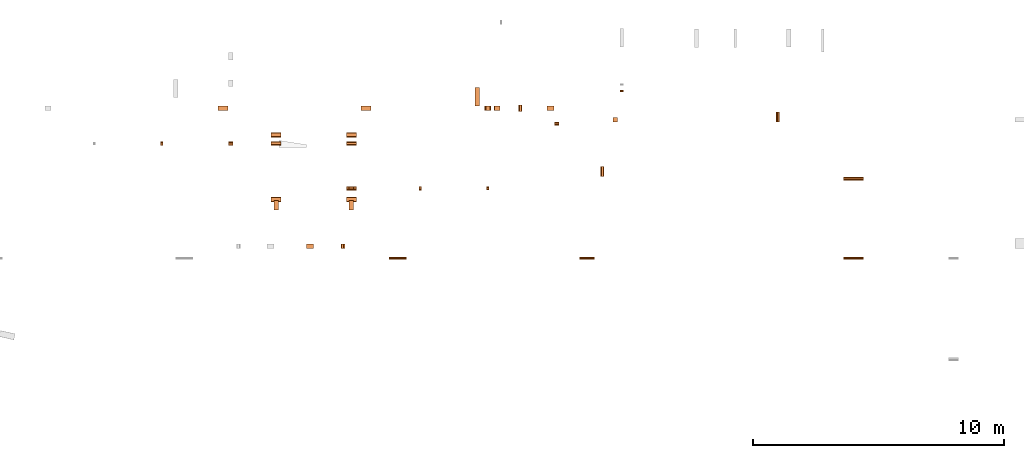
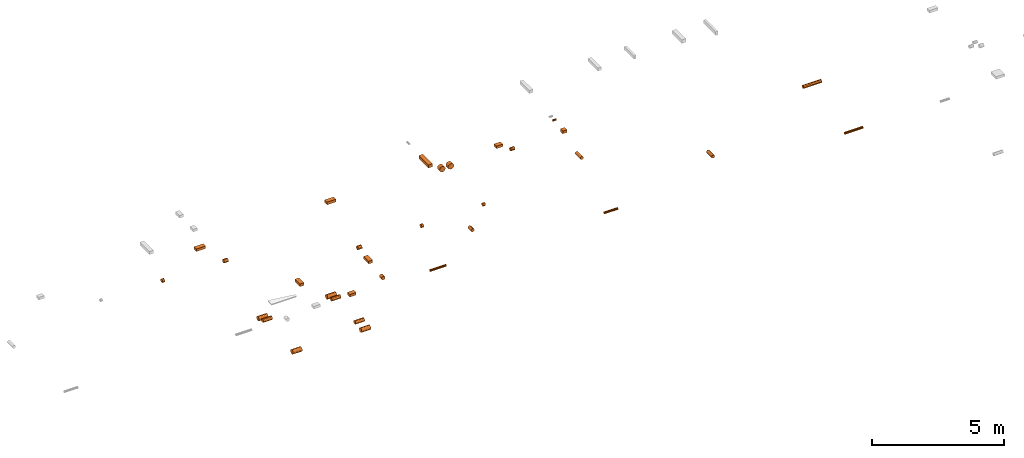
# One storey, part 4 of 7: 37 proxies.
"""IFC2X3 building model written with IfcOpenShell, lengths in centimetres."""

from ifc_helpers import new_model, entity, si_unit, converted_unit, derived_unit, direction, frame, frame_2d, origin, origin_2d_with_axis, place, context, subcontext, project, spatial, rectangle, circle, extrude, source, transform, mapped, material, type_object, type_shapes, element, save


model = new_model("IFC2X3")

# Units and contexts
model_context = context("Model", 3, precision=0.001, world=origin(), true_north=direction((6.12303176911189e-17, 1.0)))
body_context = subcontext(model_context, "Body", "Model", "MODEL_VIEW")
ifc_project = project(units=[si_unit("LENGTHUNIT", "METRE", prefix="CENTI"), si_unit("AREAUNIT", "SQUARE_METRE"), si_unit("VOLUMEUNIT", "CUBIC_METRE"), converted_unit("PLANEANGLEUNIT", "DEGREE", entity("IfcRatioMeasure", 0.0174532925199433), si_unit("PLANEANGLEUNIT", "RADIAN"), dimensions=[0, 0, 0, 0, 0, 0, 0]), si_unit("MASSUNIT", "GRAM", prefix="KILO"), derived_unit("MASSDENSITYUNIT", [(si_unit("MASSUNIT", "GRAM", prefix="KILO"), 1), (si_unit("LENGTHUNIT", "METRE"), -3)]), si_unit("TIMEUNIT", "SECOND"), si_unit("FREQUENCYUNIT", "HERTZ"), si_unit("THERMODYNAMICTEMPERATUREUNIT", "DEGREE_CELSIUS"), derived_unit("THERMALTRANSMITTANCEUNIT", [(si_unit("MASSUNIT", "GRAM", prefix="KILO"), 1), (si_unit("THERMODYNAMICTEMPERATUREUNIT", "KELVIN"), -1), (si_unit("TIMEUNIT", "SECOND"), -3)]), derived_unit("VOLUMETRICFLOWRATEUNIT", [(si_unit("LENGTHUNIT", "METRE"), 3), (si_unit("TIMEUNIT", "SECOND"), -1)]), si_unit("ELECTRICCURRENTUNIT", "AMPERE"), si_unit("ELECTRICVOLTAGEUNIT", "VOLT"), si_unit("POWERUNIT", "WATT"), si_unit("FORCEUNIT", "NEWTON"), si_unit("ILLUMINANCEUNIT", "LUX"), si_unit("LUMINOUSFLUXUNIT", "LUMEN"), si_unit("LUMINOUSINTENSITYUNIT", "CANDELA"), derived_unit("USERDEFINED", [(si_unit("MASSUNIT", "GRAM", prefix="KILO"), -1), (si_unit("LENGTHUNIT", "METRE"), -2), (si_unit("TIMEUNIT", "SECOND"), 3), (si_unit("LUMINOUSFLUXUNIT", "LUMEN"), 1)]), derived_unit("LINEARVELOCITYUNIT", [(si_unit("LENGTHUNIT", "METRE"), 1), (si_unit("TIMEUNIT", "SECOND"), -1)]), si_unit("PRESSUREUNIT", "PASCAL"), derived_unit("USERDEFINED", [(si_unit("LENGTHUNIT", "METRE"), -2), (si_unit("MASSUNIT", "GRAM", prefix="KILO"), 1), (si_unit("TIMEUNIT", "SECOND"), -2)])], contexts=[model_context])

# Site, building, storey
site_placement = place(None, origin())
site = spatial("IfcSite", under=ifc_project, at=site_placement, Name="Default", CompositionType="ELEMENT")
building_placement = place(site_placement, origin())
building = spatial("IfcBuilding", under=site, at=building_placement, Name="CAGE 03", CompositionType="ELEMENT")
storey_placement = place(building_placement, origin())
storey = spatial("IfcBuildingStorey", under=building, at=storey_placement, Name="RDC", CompositionType="ELEMENT", Elevation=-1.08286712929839e-13)

# Proxies
ifc_material = material(Name="Verre")
building_element_proxy_type_1 = type_object("IfcBuildingElementProxyType", Name="Standard", PredefinedType="NOTDEFINED", material=ifc_material)
shared_shape_1 = source(origin(), body_context, "Body", "SweptSolid", [
    extrude(circle(Radius=8.0, at=frame_2d((0.0, -1.35358391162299e-14), x_axis=(1.0, 0.0))), frame((7002.33572292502, 4800.99538609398, -69.9194151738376), z_axis=(1.0, 0.0, 0.0), x_axis=(0.0, 1.0, 0.0)), (0.0, 0.0, 1.0), 40.0300972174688),
])
type_shapes(building_element_proxy_type_1, [shared_shape_1])
proxy_1_placement = place(storey_placement, origin())
element("IfcBuildingElementProxy", 1, at=proxy_1_placement, inside=storey, type_object=building_element_proxy_type_1, material=ifc_material, Name="RESERVATION CIRC_MUR:Standard", ObjectType="Standard", context=body_context, shape_type="MappedRepresentation", body=[
    mapped(shared_shape_1, transform((0.0, 0.0, 0.0), scale=1.0)),
])
building_element_proxy_type_2 = type_object("IfcBuildingElementProxyType", Name="Standard", PredefinedType="NOTDEFINED", material=ifc_material)
shared_shape_2 = source(origin(), body_context, "Body", "SweptSolid", [
    extrude(circle(Radius=8.0, at=frame_2d((0.0, -1.35358391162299e-14), x_axis=(1.0, 0.0))), frame((7302.36582014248, 4621.86983506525, -74.370027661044), z_axis=(1.0, 0.0, 0.0), x_axis=(0.0, 1.0, 0.0)), (0.0, 0.0, 1.0), 40.0000000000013),
])
type_shapes(building_element_proxy_type_2, [shared_shape_2])
proxy_2_placement = place(storey_placement, origin())
element("IfcBuildingElementProxy", 2, at=proxy_2_placement, inside=storey, type_object=building_element_proxy_type_2, material=ifc_material, Name="RESERVATION CIRC_MUR:Standard", ObjectType="Standard", context=body_context, shape_type="MappedRepresentation", body=[
    mapped(shared_shape_2, transform((0.0, 0.0, 0.0), scale=1.0)),
])
building_element_proxy_type_3 = type_object("IfcBuildingElementProxyType", Name="Standard", PredefinedType="NOTDEFINED", material=ifc_material)
shared_shape_3 = source(origin(), body_context, "Body", "SweptSolid", [
    extrude(circle(Radius=8.0, at=frame_2d((0.0, -1.35358391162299e-14), x_axis=(1.0, 0.0))), frame((7302.36582014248, 4800.92565582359, -76.088150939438), z_axis=(1.0, 0.0, 0.0), x_axis=(0.0, 1.0, 0.0)), (0.0, 0.0, 1.0), 40.0000000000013),
])
type_shapes(building_element_proxy_type_3, [shared_shape_3])
proxy_3_placement = place(storey_placement, origin())
element("IfcBuildingElementProxy", 3, at=proxy_3_placement, inside=storey, type_object=building_element_proxy_type_3, material=ifc_material, Name="RESERVATION CIRC_MUR:Standard", ObjectType="Standard", context=body_context, shape_type="MappedRepresentation", body=[
    mapped(shared_shape_3, transform((0.0, 0.0, 0.0), scale=1.0)),
])
building_element_proxy_type_4 = type_object("IfcBuildingElementProxyType", Name="Standard", PredefinedType="NOTDEFINED", material=ifc_material)
shared_shape_4 = source(origin(), body_context, "Body", "SweptSolid", [
    extrude(circle(Radius=7.0, at=frame_2d((0.0, -1.35358391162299e-14), x_axis=(1.0, 0.0))), frame((7996.37299410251, 4929.1606660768, -77.9402316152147), z_axis=(0.0, 1.0, 0.0), x_axis=(-1.0, 0.0, 0.0)), (0.0, 0.0, 1.0), 24.9999999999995),
])
type_shapes(building_element_proxy_type_4, [shared_shape_4])
proxy_4_placement = place(storey_placement, origin())
element("IfcBuildingElementProxy", 4, at=proxy_4_placement, inside=storey, type_object=building_element_proxy_type_4, material=ifc_material, Name="RESERVATION CIRC_MUR:Standard", ObjectType="Standard", context=body_context, shape_type="MappedRepresentation", body=[
    mapped(shared_shape_4, transform((0.0, 0.0, 0.0), scale=1.0)),
])
building_element_proxy_type_5 = type_object("IfcBuildingElementProxyType", Name="Standard", PredefinedType="NOTDEFINED", material=ifc_material)
shared_shape_5 = source(origin(), body_context, "Body", "SweptSolid", [
    extrude(circle(Radius=7.0, at=frame_2d((0.0, -1.35358391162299e-14), x_axis=(1.0, 0.0))), frame((9023.61232498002, 4886.66066607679, -70.9251379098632), z_axis=(0.0, 1.0, 0.0), x_axis=(-1.0, 0.0, 0.0)), (0.0, 0.0, 1.0), 39.9999999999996),
])
type_shapes(building_element_proxy_type_5, [shared_shape_5])
proxy_5_placement = place(storey_placement, origin())
element("IfcBuildingElementProxy", 5, at=proxy_5_placement, inside=storey, type_object=building_element_proxy_type_5, material=ifc_material, Name="RESERVATION CIRC_MUR:Standard", ObjectType="Standard", context=body_context, shape_type="MappedRepresentation", body=[
    mapped(shared_shape_5, transform((0.0, 0.0, 0.0), scale=1.0)),
])
building_element_proxy_type_6 = type_object("IfcBuildingElementProxyType", Name="Standard", PredefinedType="NOTDEFINED", material=ifc_material)
shared_shape_6 = source(origin(), body_context, "Body", "SweptSolid", [
    extrude(circle(Radius=8.0, at=frame_2d((4.97439393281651e-16, -3.60169955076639e-14), x_axis=(1.0, 0.0))), frame((0.0, -5.0, 0.0), z_axis=(0.0, 1.0, 0.0), x_axis=(1.0, 0.0, 0.0)), (0.0, 0.0, 1.0), 10.0000000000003),
])
type_shapes(building_element_proxy_type_6, [shared_shape_6])
proxy_6_placement = place(storey_placement, frame((6566.36582014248, 4801.0105269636, 268.591547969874), z_axis=(0.0, 0.0, 1.0), x_axis=(0.0, -1.0, 0.0)))
element("IfcBuildingElementProxy", 6, at=proxy_6_placement, inside=storey, type_object=building_element_proxy_type_6, material=ifc_material, Name="RESERVATION CIRC_MUR:Standard", ObjectType="Standard", context=body_context, shape_type="MappedRepresentation", body=[
    mapped(shared_shape_6, transform((0.0, 0.0, 0.0), scale=1.0)),
])
building_element_proxy_type_7 = type_object("IfcBuildingElementProxyType", Name="Standard", PredefinedType="NOTDEFINED", material=ifc_material)
shared_shape_7 = source(origin(), body_context, "Body", "SweptSolid", [
    extrude(circle(Radius=8.0, at=frame_2d((4.97439393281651e-16, -3.60169955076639e-14), x_axis=(1.0, 0.0))), frame((0.0, -9.0, 0.0), z_axis=(0.0, 1.0, 0.0), x_axis=(1.0, 0.0, 0.0)), (0.0, 0.0, 1.0), 18.0000000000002),
])
type_shapes(building_element_proxy_type_7, [shared_shape_7])
for number, where, z_axis, x_axis, name in (
    (7, (6840.36582014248, 4801.0105269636, 264.833178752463), (0.0, 0.0, 1.0), (0.0, -1.0, 0.0), "RESERVATION CIRC_MUR:Standard"),
    (8, (7322.36582014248, 4621.8515879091, 265.939359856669), (0.0, 0.0, 1.0), (0.0, 1.0, 0.0), "RESERVATION CIRC_MUR:Standard"),
):
    element("IfcBuildingElementProxy", number, at=place(storey_placement, frame(where, z_axis=z_axis, x_axis=x_axis)), inside=storey, type_object=building_element_proxy_type_7, material=ifc_material, Name=name, ObjectType="Standard", context=body_context, shape_type="MappedRepresentation", body=[
        mapped(shared_shape_7, transform((0.0, 0.0, 0.0), scale=1.0)),
    ])
building_element_proxy_type_8 = type_object("IfcBuildingElementProxyType", Name="Standard", PredefinedType="NOTDEFINED", material=ifc_material)
shared_shape_8 = source(origin(), body_context, "Body", "SweptSolid", [
    extrude(circle(Radius=8.0, at=frame_2d((4.97439393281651e-16, -3.60169955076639e-14), x_axis=(1.0, 0.0))), frame((0.0, -5.0, 0.0), z_axis=(0.0, 1.0, 0.0), x_axis=(1.0, 0.0, 0.0)), (0.0, 0.0, 1.0), 10.0000000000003),
])
type_shapes(building_element_proxy_type_8, [shared_shape_8])
proxy_7_placement = place(storey_placement, frame((7596.36582014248, 4621.85275815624, 270.15172542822), z_axis=(0.0, 0.0, 1.0), x_axis=(0.0, 1.0, 0.0)))
element("IfcBuildingElementProxy", 9, at=proxy_7_placement, inside=storey, type_object=building_element_proxy_type_8, material=ifc_material, Name="BBGO_Résa_Circ:Standard", ObjectType="Standard", context=body_context, shape_type="MappedRepresentation", body=[
    mapped(shared_shape_8, transform((0.0, 0.0, 0.0), scale=1.0)),
])
building_element_proxy_type_9 = type_object("IfcBuildingElementProxyType", Name="Standard", PredefinedType="NOTDEFINED", material=ifc_material)
shared_shape_9 = source(origin(), body_context, "Body", "SweptSolid", [
    extrude(circle(Radius=7.0, at=frame_2d((-3.48550551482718e-16, -3.1514871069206e-14), x_axis=(1.0, 0.0))), frame((0.0, -5.0, 0.0), z_axis=(0.0, 1.0, 0.0), x_axis=(1.0, 0.0, 0.0)), (0.0, 0.0, 1.0), 9.99999999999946),
])
type_shapes(building_element_proxy_type_9, [shared_shape_9])
proxy_8_placement = place(storey_placement, frame((7866.36582014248, 4621.85275815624, 274.18115996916), z_axis=(0.0, 0.0, 1.0), x_axis=(0.0, 1.0, 0.0)))
element("IfcBuildingElementProxy", 10, at=proxy_8_placement, inside=storey, type_object=building_element_proxy_type_9, material=ifc_material, Name="RESERVATION CIRC_MUR:Standard", ObjectType="Standard", context=body_context, shape_type="MappedRepresentation", body=[
    mapped(shared_shape_9, transform((0.0, 0.0, 0.0), scale=1.0)),
])
building_element_proxy_type_10 = type_object("IfcBuildingElementProxyType", Name="Standard", PredefinedType="NOTDEFINED", material=ifc_material)
shared_shape_10 = source(origin(), body_context, "Body", "SweptSolid", [
    extrude(circle(Radius=10.0, at=frame_2d((0.0, -1.35358391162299e-14), x_axis=(1.0, 0.0))), frame((7002.33572292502, 4835.55874044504, -81.622837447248), z_axis=(1.0, 0.0, 0.0), x_axis=(0.0, 1.0, 0.0)), (0.0, 0.0, 1.0), 40.0300972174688),
])
type_shapes(building_element_proxy_type_10, [shared_shape_10])
proxy_9_placement = place(storey_placement, origin())
element("IfcBuildingElementProxy", 11, at=proxy_9_placement, inside=storey, type_object=building_element_proxy_type_10, material=ifc_material, Name="RESERVATION CIRC_MUR:Standard", ObjectType="Standard", context=body_context, shape_type="MappedRepresentation", body=[
    mapped(shared_shape_10, transform((0.0, 0.0, 0.0), scale=1.0)),
])
building_element_proxy_type_11 = type_object("IfcBuildingElementProxyType", Name="Standard", PredefinedType="NOTDEFINED", material=ifc_material)
shared_shape_11 = source(origin(), body_context, "Body", "SweptSolid", [
    extrude(circle(Radius=10.0, at=frame_2d((0.0, -1.35358391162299e-14), x_axis=(1.0, 0.0))), frame((7002.33572292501, 4577.80053990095, -79.1223674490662), z_axis=(1.0, 0.0, 0.0), x_axis=(0.0, 1.0, 0.0)), (0.0, 0.0, 1.0), 40.0300972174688),
])
type_shapes(building_element_proxy_type_11, [shared_shape_11])
proxy_10_placement = place(storey_placement, origin())
element("IfcBuildingElementProxy", 12, at=proxy_10_placement, inside=storey, type_object=building_element_proxy_type_11, material=ifc_material, Name="RESERVATION CIRC_MUR:Standard", ObjectType="Standard", context=body_context, shape_type="MappedRepresentation", body=[
    mapped(shared_shape_11, transform((0.0, 0.0, 0.0), scale=1.0)),
])
building_element_proxy_type_12 = type_object("IfcBuildingElementProxyType", Name="Standard", PredefinedType="NOTDEFINED", material=ifc_material)
shared_shape_12 = source(origin(), body_context, "Body", "SweptSolid", [
    extrude(circle(Radius=10.0, at=frame_2d((0.0, -1.35358391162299e-14), x_axis=(1.0, 0.0))), frame((7302.36582014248, 4835.55874044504, -86.3492084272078), z_axis=(1.0, 0.0, 0.0), x_axis=(0.0, 1.0, 0.0)), (0.0, 0.0, 1.0), 40.0000000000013),
])
type_shapes(building_element_proxy_type_12, [shared_shape_12])
proxy_11_placement = place(storey_placement, origin())
element("IfcBuildingElementProxy", 13, at=proxy_11_placement, inside=storey, type_object=building_element_proxy_type_12, material=ifc_material, Name="RESERVATION CIRC_MUR:Standard", ObjectType="Standard", context=body_context, shape_type="MappedRepresentation", body=[
    mapped(shared_shape_12, transform((0.0, 0.0, 0.0), scale=1.0)),
])
building_element_proxy_type_13 = type_object("IfcBuildingElementProxyType", Name="Standard", PredefinedType="NOTDEFINED", material=ifc_material)
shared_shape_13 = source(origin(), body_context, "Body", "SweptSolid", [
    extrude(circle(Radius=10.0, at=frame_2d((0.0, -1.35358391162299e-14), x_axis=(1.0, 0.0))), frame((7302.36582014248, 4577.80053990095, -83.6070710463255), z_axis=(1.0, 0.0, 0.0), x_axis=(0.0, 1.0, 0.0)), (0.0, 0.0, 1.0), 39.9999999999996),
])
type_shapes(building_element_proxy_type_13, [shared_shape_13])
proxy_12_placement = place(storey_placement, origin())
element("IfcBuildingElementProxy", 14, at=proxy_12_placement, inside=storey, type_object=building_element_proxy_type_13, material=ifc_material, Name="RESERVATION CIRC_MUR:Standard", ObjectType="Standard", context=body_context, shape_type="MappedRepresentation", body=[
    mapped(shared_shape_13, transform((0.0, 0.0, 0.0), scale=1.0)),
])
building_element_proxy_type_14 = type_object("IfcBuildingElementProxyType", Name="Standard", PredefinedType="NOTDEFINED", material=ifc_material)
shared_shape_14 = source(origin(), body_context, "Body", "SweptSolid", [
    extrude(circle(Radius=8.0, at=frame_2d((4.97439393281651e-16, -3.60169955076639e-14), x_axis=(1.0, 0.0))), frame((0.0, -5.0, 0.0), z_axis=(0.0, 1.0, 0.0), x_axis=(1.0, 0.0, 0.0)), (0.0, 0.0, 1.0), 10.0000000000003),
])
type_shapes(building_element_proxy_type_14, [shared_shape_14])
proxy_13_placement = place(storey_placement, frame((6566.36582014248, 4801.0105269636, 268.591547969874), z_axis=(0.0, 0.0, 1.0), x_axis=(0.0, -1.0, 0.0)))
element("IfcBuildingElementProxy", 15, at=proxy_13_placement, inside=storey, type_object=building_element_proxy_type_14, material=ifc_material, Name="RESERVATION CIRC_MUR1:Standard", ObjectType="Standard", context=body_context, shape_type="MappedRepresentation", body=[
    mapped(shared_shape_14, transform((0.0, 0.0, 0.0), scale=1.0)),
])
building_element_proxy_type_15 = type_object("IfcBuildingElementProxyType", Name="Standard", PredefinedType="NOTDEFINED", material=ifc_material)
shared_shape_15 = source(origin(), body_context, "Body", "SweptSolid", [
    extrude(circle(Radius=8.0, at=frame_2d((4.97439393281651e-16, -3.60169955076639e-14), x_axis=(1.0, 0.0))), frame((0.0, -9.0, 0.0), z_axis=(0.0, 1.0, 0.0), x_axis=(1.0, 0.0, 0.0)), (0.0, 0.0, 1.0), 18.0000000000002),
])
type_shapes(building_element_proxy_type_15, [shared_shape_15])
proxy_14_placement = place(storey_placement, frame((6840.36582014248, 4801.0105269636, 264.833178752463), z_axis=(0.0, 0.0, 1.0), x_axis=(0.0, -1.0, 0.0)))
element("IfcBuildingElementProxy", 16, at=proxy_14_placement, inside=storey, type_object=building_element_proxy_type_15, material=ifc_material, Name="RESERVATION CIRC_MUR1:Standard", ObjectType="Standard", context=body_context, shape_type="MappedRepresentation", body=[
    mapped(shared_shape_15, transform((0.0, 0.0, 0.0), scale=1.0)),
])
building_element_proxy_type_16 = type_object("IfcBuildingElementProxyType", Name="Standard", PredefinedType="NOTDEFINED", material=ifc_material)
shared_shape_16 = source(origin(), body_context, "Body", "SweptSolid", [
    extrude(circle(Radius=8.0, at=frame_2d((4.97439393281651e-16, -3.60169955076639e-14), x_axis=(1.0, 0.0))), frame((0.0, -9.0, 0.0), z_axis=(0.0, 1.0, 0.0), x_axis=(1.0, 0.0, 0.0)), (0.0, 0.0, 1.0), 18.0000000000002),
])
type_shapes(building_element_proxy_type_16, [shared_shape_16])
proxy_15_placement = place(storey_placement, frame((7289.58901366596, 4390.6606660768, 280.520678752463)))
element("IfcBuildingElementProxy", 17, at=proxy_15_placement, inside=storey, type_object=building_element_proxy_type_16, material=ifc_material, Name="RESERVATION CIRC_MUR1:Standard", ObjectType="Standard", context=body_context, shape_type="MappedRepresentation", body=[
    mapped(shared_shape_16, transform((0.0, 0.0, 0.0), scale=1.0)),
])
building_element_proxy_type_17 = type_object("IfcBuildingElementProxyType", Name="Standard", PredefinedType="NOTDEFINED", material=ifc_material)
shared_shape_17 = source(origin(), body_context, "Body", "SweptSolid", [
    extrude(circle(Radius=8.0, at=origin_2d_with_axis()), frame((7313.36582014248, 4621.8515879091, 265.939359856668), z_axis=(1.0, 0.0, 0.0), x_axis=(0.0, 1.0, 0.0)), (0.0, 0.0, 1.0), 18.0000000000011),
])
type_shapes(building_element_proxy_type_17, [shared_shape_17])
proxy_16_placement = place(storey_placement, origin())
element("IfcBuildingElementProxy", 18, at=proxy_16_placement, inside=storey, type_object=building_element_proxy_type_17, material=ifc_material, Name="RESERVATION CIRC_MUR1:Standard", ObjectType="Standard", context=body_context, shape_type="MappedRepresentation", body=[
    mapped(shared_shape_17, transform((0.0, 0.0, 0.0), scale=1.0)),
])
building_element_proxy_type_18 = type_object("IfcBuildingElementProxyType", Name="Standard", PredefinedType="NOTDEFINED", material=ifc_material)
shared_shape_18 = source(origin(), body_context, "Body", "SweptSolid", [
    extrude(circle(Radius=8.0, at=frame_2d((4.97439393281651e-16, -3.60169955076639e-14), x_axis=(1.0, 0.0))), frame((0.0, -5.0, 0.0), z_axis=(0.0, 1.0, 0.0), x_axis=(1.0, 0.0, 0.0)), (0.0, 0.0, 1.0), 10.0000000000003),
])
type_shapes(building_element_proxy_type_18, [shared_shape_18])
proxy_17_placement = place(storey_placement, frame((7596.36582014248, 4621.85275815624, 270.15172542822), z_axis=(0.0, 0.0, 1.0), x_axis=(0.0, 1.0, 0.0)))
element("IfcBuildingElementProxy", 19, at=proxy_17_placement, inside=storey, type_object=building_element_proxy_type_18, material=ifc_material, Name="RESERVATION CIRC_MUR1:Standard", ObjectType="Standard", context=body_context, shape_type="MappedRepresentation", body=[
    mapped(shared_shape_18, transform((0.0, 0.0, 0.0), scale=1.0)),
])
building_element_proxy_type_19 = type_object("IfcBuildingElementProxyType", Name="Standard", PredefinedType="NOTDEFINED", material=ifc_material)
shared_shape_19 = source(origin(), body_context, "Body", "SweptSolid", [
    extrude(circle(Radius=7.0, at=frame_2d((-3.48550551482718e-16, -3.1514871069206e-14), x_axis=(1.0, 0.0))), frame((0.0, -5.0, 0.0), z_axis=(0.0, 1.0, 0.0), x_axis=(1.0, 0.0, 0.0)), (0.0, 0.0, 1.0), 9.99999999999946),
])
type_shapes(building_element_proxy_type_19, [shared_shape_19])
proxy_18_placement = place(storey_placement, frame((7866.36582014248, 4621.85275815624, 274.18115996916), z_axis=(0.0, 0.0, 1.0), x_axis=(0.0, 1.0, 0.0)))
element("IfcBuildingElementProxy", 20, at=proxy_18_placement, inside=storey, type_object=building_element_proxy_type_19, material=ifc_material, Name="RESERVATION CIRC_MUR1:Standard", ObjectType="Standard", context=body_context, shape_type="MappedRepresentation", body=[
    mapped(shared_shape_19, transform((0.0, 0.0, 0.0), scale=1.0)),
])
building_element_proxy_type_20 = type_object("IfcBuildingElementProxyType", Name="Standard", PredefinedType="NOTDEFINED", material=ifc_material)
shared_shape_20 = source(origin(), body_context, "Body", "SweptSolid", [
    extrude(circle(Radius=7.0, at=frame_2d((-3.48550551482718e-16, -3.1514871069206e-14), x_axis=(1.0, 0.0))), frame((0.0, -9.0, 0.0), z_axis=(0.0, 1.0, 0.0), x_axis=(1.0, 0.0, 0.0)), (0.0, 0.0, 1.0), 17.9999999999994),
])
type_shapes(building_element_proxy_type_20, [shared_shape_20])
proxy_19_placement = place(storey_placement, frame((8140.36582014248, 4880.13381885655, 279.050534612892), z_axis=(0.0, 0.0, 1.0), x_axis=(0.0, 1.0, 0.0)))
element("IfcBuildingElementProxy", 21, at=proxy_19_placement, inside=storey, type_object=building_element_proxy_type_20, material=ifc_material, Name="RESERVATION CIRC_MUR1:Standard", ObjectType="Standard", context=body_context, shape_type="MappedRepresentation", body=[
    mapped(shared_shape_20, transform((0.0, 0.0, 0.0), scale=1.0)),
])
building_element_proxy_type_21 = type_object("IfcBuildingElementProxyType", Name="Standard", PredefinedType="NOTDEFINED", material=ifc_material)
shared_shape_21 = source(origin(), body_context, "Body", "SweptSolid", [
    extrude(circle(Radius=7.0, at=frame_2d((-3.48550551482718e-16, -3.1514871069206e-14), x_axis=(1.0, 0.0))), frame((0.0, -20.0, 0.0), z_axis=(0.0, 1.0, 0.0), x_axis=(1.0, 0.0, 0.0)), (0.0, 0.0, 1.0), 39.9999999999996),
])
type_shapes(building_element_proxy_type_21, [shared_shape_21])
proxy_20_placement = place(storey_placement, frame((8323.36666684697, 4688.66066536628, 299.868905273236), z_axis=(0.0, 0.0, 1.0), x_axis=(-1.0, 4.42143716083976e-09, 0.0)))
element("IfcBuildingElementProxy", 22, at=proxy_20_placement, inside=storey, type_object=building_element_proxy_type_21, material=ifc_material, Name="RESERVATION CIRC_MUR1:Standard", ObjectType="Standard", context=body_context, shape_type="MappedRepresentation", body=[
    mapped(shared_shape_21, transform((0.0, 0.0, 0.0), scale=1.0)),
])
building_element_proxy_type_22 = type_object("IfcBuildingElementProxyType", Name="Standard", PredefinedType="NOTDEFINED", material=ifc_material)
shared_shape_22 = source(origin(), body_context, "Body", "SweptSolid", [
    extrude(rectangle(XDim=17.9999999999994, YDim=39.9999999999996, at=origin_2d_with_axis()), frame((6809.61509106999, 4941.6606660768, 243.951580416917), z_axis=(0.0, 0.0, 1.0), x_axis=(0.0, -1.0, 0.0)), (0.0, 0.0, 1.0), 12.0),
])
type_shapes(building_element_proxy_type_22, [shared_shape_22])
proxy_21_placement = place(storey_placement, origin())
element("IfcBuildingElementProxy", 23, at=proxy_21_placement, inside=storey, type_object=building_element_proxy_type_22, material=ifc_material, Name="RESERVATION RECT_MUR:Standard", ObjectType="Standard", context=body_context, shape_type="MappedRepresentation", body=[
    mapped(shared_shape_22, transform((0.0, 0.0, 0.0), scale=1.0)),
])
building_element_proxy_type_23 = type_object("IfcBuildingElementProxyType", Name="Standard", PredefinedType="NOTDEFINED", material=ifc_material)
shared_shape_23 = source(origin(), body_context, "Body", "SweptSolid", [
    extrude(rectangle(XDim=18.0000000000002, YDim=38.0, at=origin_2d_with_axis()), frame((0.0, 0.0, -6.0), z_axis=(0.0, 0.0, 1.0), x_axis=(0.0, 1.0, 0.0)), (0.0, 0.0, 1.0), 12.0),
])
type_shapes(building_element_proxy_type_23, [shared_shape_23])
proxy_22_placement = place(storey_placement, frame((7022.36582014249, 4554.73899518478, 250.076580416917), z_axis=(0.0, 0.0, 1.0), x_axis=(0.0, -1.0, 0.0)))
element("IfcBuildingElementProxy", 24, at=proxy_22_placement, inside=storey, type_object=building_element_proxy_type_23, material=ifc_material, Name="RESERVATION RECT_MUR:Standard", ObjectType="Standard", context=body_context, shape_type="MappedRepresentation", body=[
    mapped(shared_shape_23, transform((0.0, 0.0, 0.0), scale=1.0)),
])
building_element_proxy_type_24 = type_object("IfcBuildingElementProxyType", Name="Standard", PredefinedType="NOTDEFINED", material=ifc_material)
shared_shape_24 = source(origin(), body_context, "Body", "SweptSolid", [
    extrude(rectangle(XDim=17.9999999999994, YDim=38.0, at=origin_2d_with_axis()), frame((7322.36582014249, 4554.73899518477, 244.076580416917), z_axis=(0.0, 0.0, 1.0), x_axis=(-1.0, 0.0, 0.0)), (0.0, 0.0, 1.0), 12.0),
])
type_shapes(building_element_proxy_type_24, [shared_shape_24])
proxy_23_placement = place(storey_placement, origin())
element("IfcBuildingElementProxy", 25, at=proxy_23_placement, inside=storey, type_object=building_element_proxy_type_24, material=ifc_material, Name="RESERVATION RECT_MUR:Standard", ObjectType="Standard", context=body_context, shape_type="MappedRepresentation", body=[
    mapped(shared_shape_24, transform((0.0, 0.0, 0.0), scale=1.0)),
])
building_element_proxy_type_25 = type_object("IfcBuildingElementProxyType", Name="Standard", PredefinedType="NOTDEFINED", material=ifc_material)
shared_shape_25 = source(origin(), body_context, "Body", "SweptSolid", [
    extrude(rectangle(XDim=17.9999999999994, YDim=40.0000000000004, at=frame_2d((0.0, -4.33431068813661e-13), x_axis=(1.0, 0.0))), frame((7380.87592787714, 4941.6606660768, 260.308942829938), z_axis=(0.0, 0.0, 1.0), x_axis=(0.0, -1.0, 0.0)), (0.0, 0.0, 1.0), 12.0),
])
type_shapes(building_element_proxy_type_25, [shared_shape_25])
proxy_24_placement = place(storey_placement, origin())
element("IfcBuildingElementProxy", 26, at=proxy_24_placement, inside=storey, type_object=building_element_proxy_type_25, material=ifc_material, Name="RESERVATION RECT_MUR:Standard", ObjectType="Standard", context=body_context, shape_type="MappedRepresentation", body=[
    mapped(shared_shape_25, transform((0.0, 0.0, 0.0), scale=1.0)),
])
building_element_proxy_type_26 = type_object("IfcBuildingElementProxyType", Name="Standard", PredefinedType="NOTDEFINED", material=ifc_material)
shared_shape_26 = source(origin(), body_context, "Body", "SweptSolid", [
    extrude(rectangle(XDim=18.0000000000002, YDim=74.0, at=origin_2d_with_axis()), frame((0.0, 0.0, -7.0), z_axis=(0.0, 0.0, 1.0), x_axis=(0.0, 1.0, 0.0)), (0.0, 0.0, 1.0), 14.0),
])
type_shapes(building_element_proxy_type_26, [shared_shape_26])
proxy_25_placement = place(storey_placement, frame((7824.36582014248, 4987.6606660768, 267.076580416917), z_axis=(0.0, 0.0, 1.0), x_axis=(0.0, 1.0, 0.0)))
element("IfcBuildingElementProxy", 27, at=proxy_25_placement, inside=storey, type_object=building_element_proxy_type_26, material=ifc_material, Name="RESERVATION RECT_MUR:Standard", ObjectType="Standard", context=body_context, shape_type="MappedRepresentation", body=[
    mapped(shared_shape_26, transform((0.0, 0.0, 0.0), scale=1.0)),
])
building_element_proxy_type_27 = type_object("IfcBuildingElementProxyType", Name="Standard", PredefinedType="NOTDEFINED", material=ifc_material)
shared_shape_27 = source(origin(), body_context, "Body", "SweptSolid", [
    extrude(rectangle(XDim=18.0000000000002, YDim=28.0, at=origin_2d_with_axis()), frame((0.0, 0.0, -6.0), z_axis=(0.0, 0.0, 1.0), x_axis=(0.0, 1.0, 0.0)), (0.0, 0.0, 1.0), 12.0),
])
type_shapes(building_element_proxy_type_27, [shared_shape_27])
proxy_26_placement = place(storey_placement, frame((8116.09486014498, 4941.66066607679, 266.076580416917), z_axis=(0.0, 0.0, 1.0), x_axis=(-1.0, 0.0, 0.0)))
element("IfcBuildingElementProxy", 28, at=proxy_26_placement, inside=storey, type_object=building_element_proxy_type_27, material=ifc_material, Name="RESERVATION RECT_MUR:Standard", ObjectType="Standard", context=body_context, shape_type="MappedRepresentation", body=[
    mapped(shared_shape_27, transform((0.0, 0.0, 0.0), scale=1.0)),
])
building_element_proxy_type_28 = type_object("IfcBuildingElementProxyType", Name="Standard", PredefinedType="NOTDEFINED", material=ifc_material)
shared_shape_28 = source(origin(), body_context, "Body", "SweptSolid", [
    extrude(circle(Radius=12.5, at=frame_2d((4.97439393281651e-16, -5.62765554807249e-14), x_axis=(1.0, 0.0))), frame((0.0, -9.0, 0.0), z_axis=(0.0, 1.0, 0.0), x_axis=(1.0, 0.0, 0.0)), (0.0, 0.0, 1.0), 18.0000000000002),
])
type_shapes(building_element_proxy_type_28, [shared_shape_28])
for number, where, z_axis, x_axis, name in (
    (29, (7903.28940323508, 4941.6606660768, 248.2), (0.0, 0.0, 1.0), (-1.0, 0.0, 0.0), "RESERVATION CIRC_MUR1:Standard"),
    (30, (7866.24082014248, 4941.6606660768, 248.201580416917), (0.0, 0.0, 1.0), (-1.0, 0.0, 0.0), "RESERVATION CIRC_MUR1:Standard"),
):
    element("IfcBuildingElementProxy", number, at=place(storey_placement, frame(where, z_axis=z_axis, x_axis=x_axis)), inside=storey, type_object=building_element_proxy_type_28, material=ifc_material, Name=name, ObjectType="Standard", context=body_context, shape_type="MappedRepresentation", body=[
        mapped(shared_shape_28, transform((0.0, 0.0, 0.0), scale=1.0)),
    ])
building_element_proxy_type_29 = type_object("IfcBuildingElementProxyType", Name="Standard", PredefinedType="NOTDEFINED", material=ifc_material)
shared_shape_29 = source(origin(), body_context, "Body", "SweptSolid", [
    extrude(circle(Radius=4.0, at=frame_2d((-3.48550551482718e-16, -1.8008497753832e-14), x_axis=(1.0, 0.0))), frame((0.0, -7.50000000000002, 0.0), z_axis=(0.0, 1.0, 0.0), x_axis=(1.0, 0.0, 0.0)), (0.0, 0.0, 1.0), 15.0000000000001),
])
type_shapes(building_element_proxy_type_29, [shared_shape_29])
proxy_27_placement = place(storey_placement, frame((8400.36582014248, 5010.32205904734, 242.0), z_axis=(0.0, 0.0, 1.0), x_axis=(0.0, 1.0, 0.0)))
element("IfcBuildingElementProxy", 31, at=proxy_27_placement, inside=storey, type_object=building_element_proxy_type_29, material=ifc_material, Name="RESERVATION CIRC_MUR1:Standard", ObjectType="Standard", context=body_context, shape_type="MappedRepresentation", body=[
    mapped(shared_shape_29, transform((0.0, 0.0, 0.0), scale=1.0)),
])
building_element_proxy_type_30 = type_object("IfcBuildingElementProxyType", Name="Standard", PredefinedType="NOTDEFINED", material=ifc_material)
shared_shape_30 = source(origin(), body_context, "Body", "SweptSolid", [
    extrude(circle(Radius=7.0, at=origin_2d_with_axis()), frame((9284.36582014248, 4659.66188713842, 297.582607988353), z_axis=(1.0, 0.0, 0.0), x_axis=(0.0, -1.0, 0.0)), (0.0, 0.0, 1.0), 79.9999999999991),
])
type_shapes(building_element_proxy_type_30, [shared_shape_30])
proxy_28_placement = place(storey_placement, origin())
element("IfcBuildingElementProxy", 32, at=proxy_28_placement, inside=storey, type_object=building_element_proxy_type_30, material=ifc_material, Name="RESERVATION CIRC_MUR1:Standard", ObjectType="Standard", context=body_context, shape_type="MappedRepresentation", body=[
    mapped(shared_shape_30, transform((0.0, 0.0, 0.0), scale=1.0)),
])
building_element_proxy_type_31 = type_object("IfcBuildingElementProxyType", Name="Standard", PredefinedType="NOTDEFINED", material=ifc_material)
shared_shape_31 = source(origin(), body_context, "Body", "SweptSolid", [
    extrude(rectangle(XDim=18.0000000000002, YDim=28.0, at=origin_2d_with_axis()), frame((0.0, 0.0, -6.0), z_axis=(0.0, 0.0, 1.0), x_axis=(0.0, 1.0, 0.0)), (0.0, 0.0, 1.0), 12.0),
])
type_shapes(building_element_proxy_type_31, [shared_shape_31])
proxy_29_placement = place(storey_placement, frame((7156.4854589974, 4390.6606660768, 249.995799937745), z_axis=(0.0, 0.0, 1.0), x_axis=(-1.0, 0.0, 0.0)))
element("IfcBuildingElementProxy", 33, at=proxy_29_placement, inside=storey, type_object=building_element_proxy_type_31, material=ifc_material, Name="RESERVATION RECT_MUR:Standard", ObjectType="Standard", context=body_context, shape_type="MappedRepresentation", body=[
    mapped(shared_shape_31, transform((0.0, 0.0, 0.0), scale=1.0)),
])
building_element_proxy_type_32 = type_object("IfcBuildingElementProxyType", Name="Standard", PredefinedType="NOTDEFINED", material=ifc_material)
shared_shape_32 = source(origin(), body_context, "Body", "SweptSolid", [
    extrude(rectangle(XDim=18.0000000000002, YDim=18.0, at=origin_2d_with_axis()), frame((0.0, 0.0, -6.49999999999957), z_axis=(0.0, 0.0, 1.0), x_axis=(0.0, 1.0, 0.0)), (0.0, 0.0, 1.0), 13.0),
])
type_shapes(building_element_proxy_type_32, [shared_shape_32])
proxy_30_placement = place(storey_placement, frame((8374.80275897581, 4895.6606660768, 271.08), z_axis=(0.0, 0.0, 1.0), x_axis=(-1.0, 0.0, 0.0)))
element("IfcBuildingElementProxy", 34, at=proxy_30_placement, inside=storey, type_object=building_element_proxy_type_32, material=ifc_material, Name="RESERVATION RECT_MUR:Standard", ObjectType="Standard", context=body_context, shape_type="MappedRepresentation", body=[
    mapped(shared_shape_32, transform((0.0, 0.0, 0.0), scale=1.0)),
])
building_element_proxy_type_33 = type_object("IfcBuildingElementProxyType", Name="Standard", PredefinedType="NOTDEFINED", material=ifc_material)
shared_shape_33 = source(origin(), body_context, "Body", "SweptSolid", [
    extrude(circle(Radius=5.0, at=origin_2d_with_axis()), frame((7471.36582014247, 4343.6606660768, 275.0), z_axis=(1.0, 0.0, 0.0), x_axis=(0.0, -1.0, 0.0)), (0.0, 0.0, 1.0), 69.9999999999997),
])
type_shapes(building_element_proxy_type_33, [shared_shape_33])
proxy_31_placement = place(storey_placement, origin())
element("IfcBuildingElementProxy", 35, at=proxy_31_placement, inside=storey, type_object=building_element_proxy_type_33, material=ifc_material, Name="RESERVATION CIRC_MUR:Standard", ObjectType="Standard", context=body_context, shape_type="MappedRepresentation", body=[
    mapped(shared_shape_33, transform((0.0, 0.0, 0.0), scale=1.0)),
])
building_element_proxy_type_34 = type_object("IfcBuildingElementProxyType", Name="Standard", PredefinedType="NOTDEFINED", material=ifc_material)
shared_shape_34 = source(origin(), body_context, "Body", "SweptSolid", [
    extrude(circle(Radius=5.0, at=origin_2d_with_axis()), frame((8232.36582014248, 4343.6606660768, 275.0), z_axis=(1.0, 0.0, 0.0), x_axis=(0.0, -1.0, 0.0)), (0.0, 0.0, 1.0), 60.0000000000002),
])
type_shapes(building_element_proxy_type_34, [shared_shape_34])
proxy_32_placement = place(storey_placement, origin())
element("IfcBuildingElementProxy", 36, at=proxy_32_placement, inside=storey, type_object=building_element_proxy_type_34, material=ifc_material, Name="RESERVATION CIRC_MUR:Standard", ObjectType="Standard", context=body_context, shape_type="MappedRepresentation", body=[
    mapped(shared_shape_34, transform((0.0, 0.0, 0.0), scale=1.0)),
])
building_element_proxy_type_35 = type_object("IfcBuildingElementProxyType", Name="Standard", PredefinedType="NOTDEFINED", material=ifc_material)
shared_shape_35 = source(origin(), body_context, "Body", "SweptSolid", [
    extrude(circle(Radius=5.0, at=origin_2d_with_axis()), frame((9284.36582014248, 4343.66066607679, 275.0), z_axis=(1.0, 0.0, 0.0), x_axis=(0.0, -1.0, 0.0)), (0.0, 0.0, 1.0), 79.9999999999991),
])
type_shapes(building_element_proxy_type_35, [shared_shape_35])
proxy_33_placement = place(storey_placement, origin())
element("IfcBuildingElementProxy", 37, at=proxy_33_placement, inside=storey, type_object=building_element_proxy_type_35, material=ifc_material, Name="RESERVATION CIRC_MUR:Standard", ObjectType="Standard", context=body_context, shape_type="MappedRepresentation", body=[
    mapped(shared_shape_35, transform((0.0, 0.0, 0.0), scale=1.0)),
])

save(model, "model.ifc")
